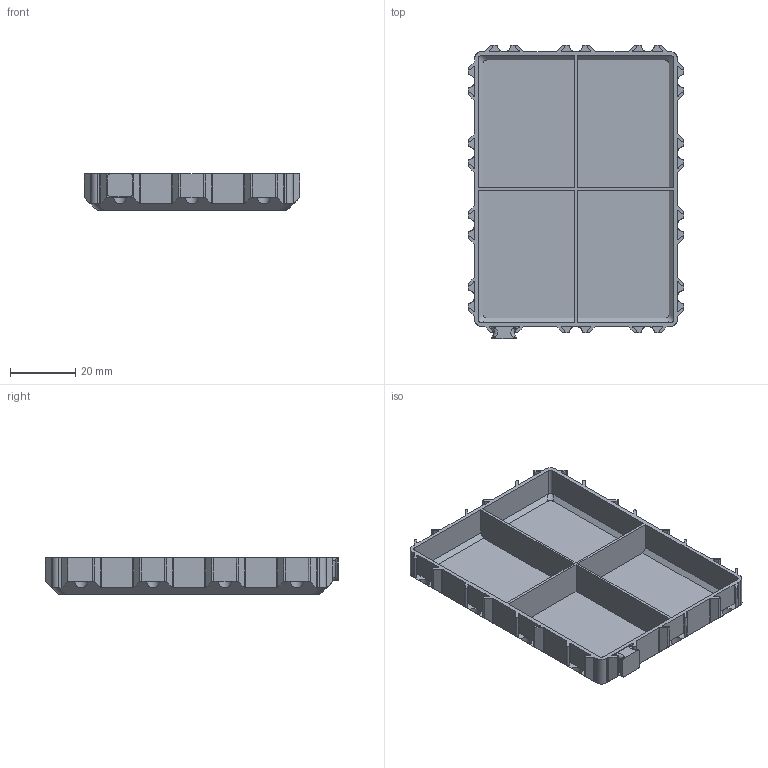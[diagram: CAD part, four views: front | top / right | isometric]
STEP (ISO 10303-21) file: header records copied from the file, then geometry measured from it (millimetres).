
FILE_DESCRIPTION(/* description */ (''),/* implementation_level */ '2;1');
FILE_NAME(/* name */ 'BOX_x03_y04_z010_tx1_ty1.stp',/* time_stamp */ '2024-02-16T08:36:46+01:00',/* author */ ('ott'),/* organization */ (''),/* preprocessor_version */ 'ST-DEVELOPER v19.2',/* originating_system */ 'Autodesk Inventor 2023',/* authorisation */ '');
FILE_SCHEMA (('AUTOMOTIVE_DESIGN { 1 0 10303 214 3 1 1 }'));
Length unit declared in the file: millimetre
Products named in the file (1): BOX_x03_y04_z010_tx1_ty1
Bounding box: 66 x 89.8 x 11.2 mm (x, y, z)
Volume: 11268.9 mm3; surface area: 20006.6 mm2
Topology: 2 solids, 2 shells, 282 faces, 794 edges, 520 vertices
Faces by surface type: plane 162, cylinder 116, torus 4
Entity records: 9553 total; most frequent: CARTESIAN_POINT 1685, DIRECTION 1626, ORIENTED_EDGE 1588, EDGE_CURVE 794, AXIS2_PLACEMENT_3D 557, VERTEX_POINT 520, LINE 512, VECTOR 512
